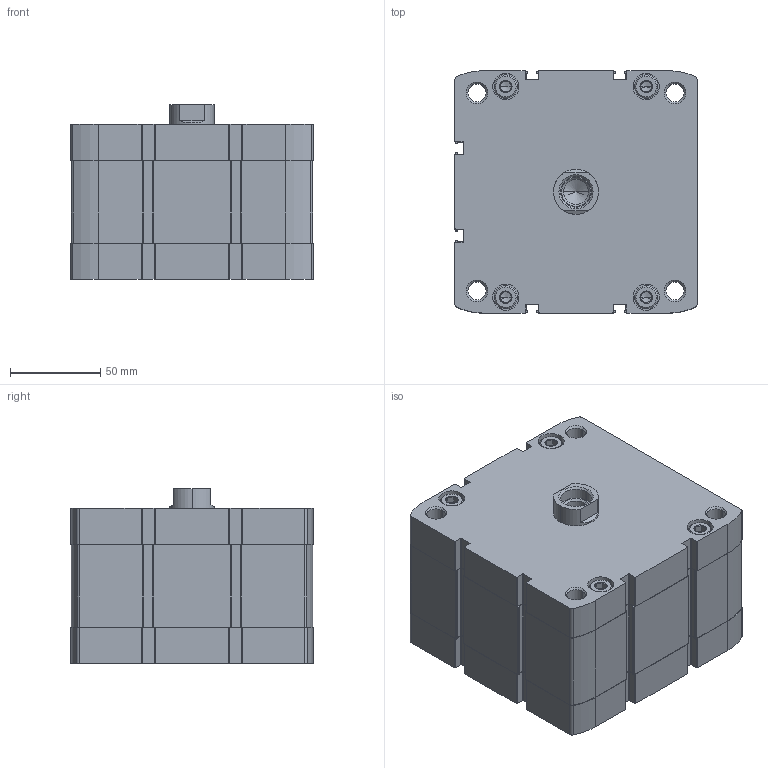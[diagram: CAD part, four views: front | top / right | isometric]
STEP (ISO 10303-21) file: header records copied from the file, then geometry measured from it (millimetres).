
FILE_DESCRIPTION (( 'STEP AP203' ), '1' );
FILE_NAME ('CCN125-5F.STEP', '2020-06-05T19:27:12', ( '' ), ( '' ), 'SwSTEP 2.0', 'SolidWorks 2019', '' );
FILE_SCHEMA (( 'CONFIG_CONTROL_DESIGN' ));
Length unit declared in the file: millimetre
Products named in the file (1): CCN125-5F
Bounding box: 134.6 x 134.6 x 97 mm (x, y, z)
Volume: 1427584.2 mm3; surface area: 187184 mm2
Topology: 2 solids, 2 shells, 535 faces, 1370 edges, 861 vertices
Faces by surface type: plane 267, cylinder 194, cone 74
Entity records: 17215 total; most frequent: CARTESIAN_POINT 3931, DIRECTION 2876, ORIENTED_EDGE 2704, EDGE_CURVE 1352, AXIS2_PLACEMENT_3D 1054, VERTEX_POINT 861, LINE 768, VECTOR 768
